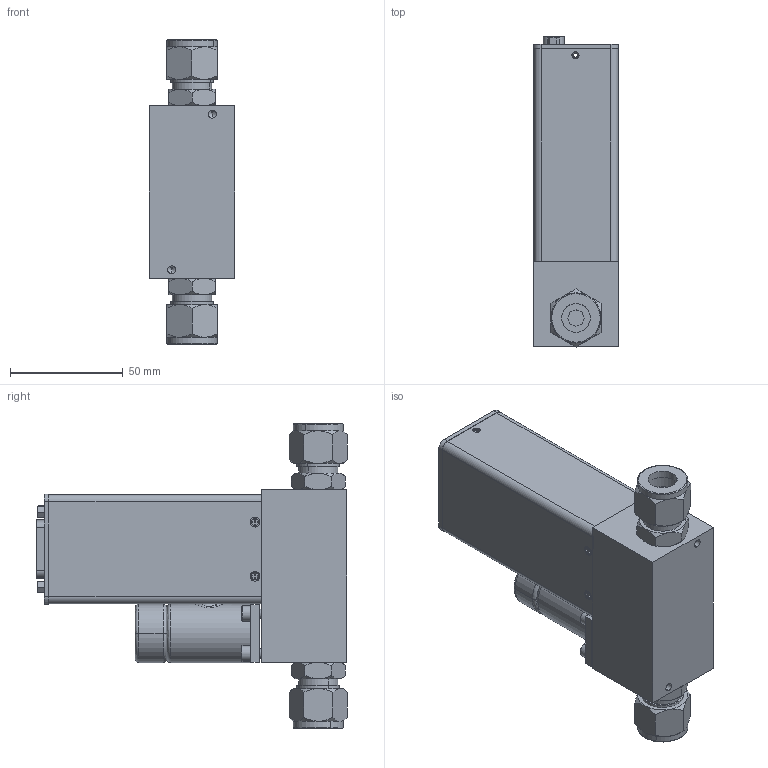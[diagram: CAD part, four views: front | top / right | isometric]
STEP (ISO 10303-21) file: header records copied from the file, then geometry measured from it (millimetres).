
FILE_DESCRIPTION (( 'STEP AP203' ), '1' );
FILE_NAME ('SLA5850-S-1P-1-B-REVB.STEP', '2024-03-22T14:15:31', ( '' ), ( '' ), 'SwSTEP 2.0', 'SolidWorks 2023', '' );
FILE_SCHEMA (( 'CONFIG_CONTROL_DESIGN' ));
Products named in the file (1): SLA5850-S-1P-1-B-REVB
Bounding box: 37.72 x 137.52 x 134.77 mm (x, y, z)
Volume: 84899 mm3; surface area: 89454.1 mm2
Topology: 24 solids, 24 shells, 1173 faces, 3098 edges, 1989 vertices
Faces by surface type: plane 589, cylinder 337, cone 202, bspline 45
Entity records: 40353 total; most frequent: CARTESIAN_POINT 10769, ORIENTED_EDGE 6168, DIRECTION 6142, EDGE_CURVE 3084, AXIS2_PLACEMENT_3D 2149, VERTEX_POINT 1989, VECTOR 1844, LINE 1844
